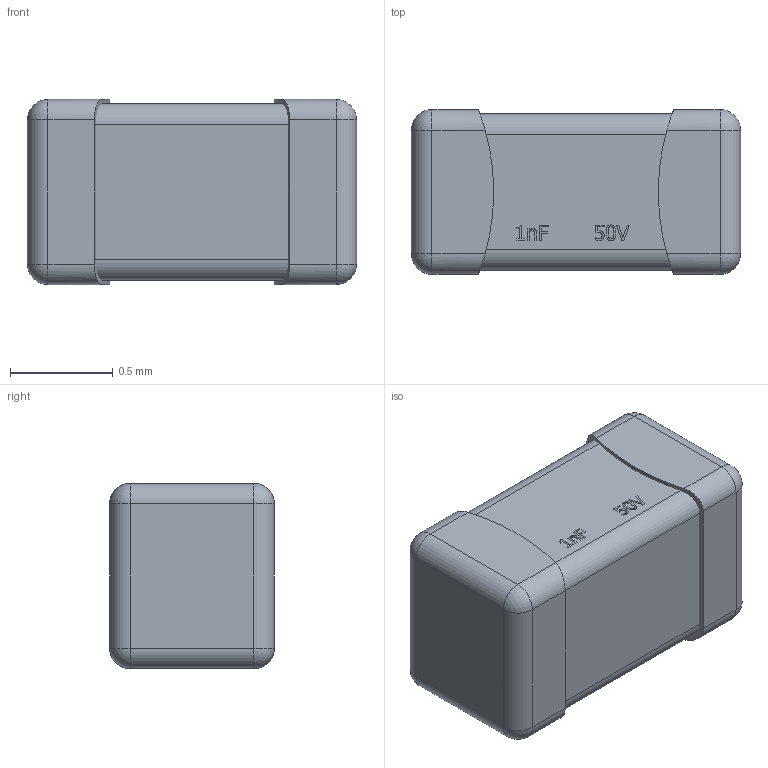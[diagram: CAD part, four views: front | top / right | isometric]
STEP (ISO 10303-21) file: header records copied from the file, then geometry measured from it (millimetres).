
FILE_DESCRIPTION(/* description */ (''),/* implementation_level */ '2;1');
FILE_NAME(/* name */ 'C:\Users\karim\Desktop\1.stp',/* time_stamp */ '2019-05-07T18:06:09+02:00',/* author */ ('karim'),/* organization */ (''),/* preprocessor_version */ 'ST-DEVELOPER v15.6',/* originating_system */ 'Autodesk Inventor 2015',/* authorisation */ '');
FILE_SCHEMA (('AUTOMOTIVE_DESIGN { 1 0 10303 214 3 1 1 }'));
Length unit declared in the file: millimetre
Products named in the file (4): 2; name; 1; 3
Bounding box: 1.6 x 0.8 x 0.9 mm (x, y, z)
Surface area: 10.9 mm2
Topology: 9 solids, 9 shells, 151 faces, 351 edges, 218 vertices
Faces by surface type: plane 72, cylinder 32, bspline 31, sphere 16
Entity records: 4537 total; most frequent: CARTESIAN_POINT 1202, ORIENTED_EDGE 702, DIRECTION 591, EDGE_CURVE 351, LINE 225, VECTOR 225, VERTEX_POINT 218, AXIS2_PLACEMENT_3D 183
